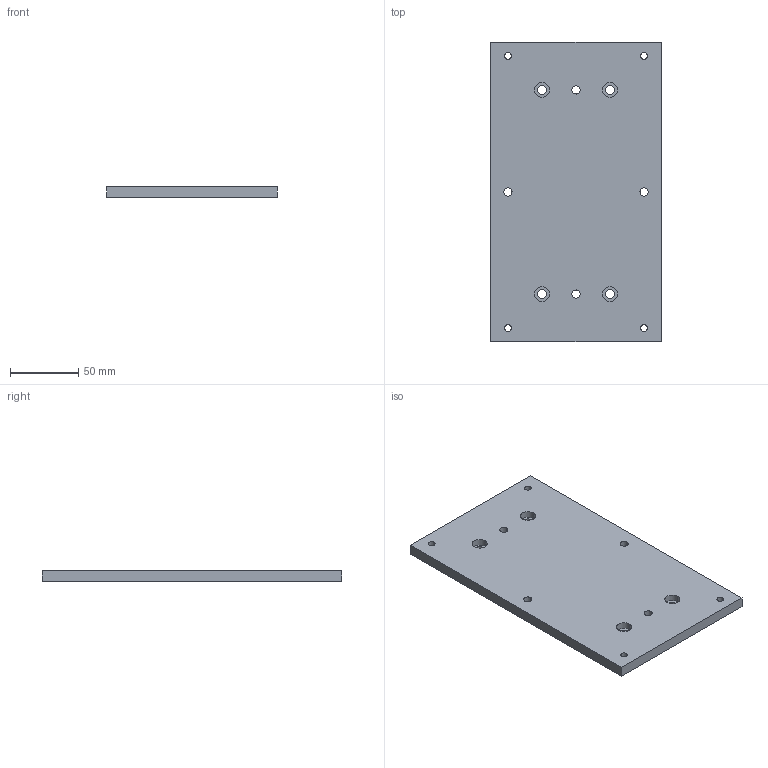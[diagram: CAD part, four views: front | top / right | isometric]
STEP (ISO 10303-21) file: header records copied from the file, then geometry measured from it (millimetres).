
FILE_DESCRIPTION (( 'STEP AP203' ), '1' );
FILE_NAME ('PS3 (fuer LF5).step', '2005-09-07T09:32:51', ( ' ' ), ( ' ' ), 'SwSTEP 2.0', 'SolidWorks 2005187', '' );
FILE_SCHEMA (( 'CONFIG_CONTROL_DESIGN' ));
Length unit declared in the file: millimetre
Products named in the file (1): PS3 (fuer LF5)
Bounding box: 125 x 220 x 8 mm (x, y, z)
Volume: 216155.7 mm3; surface area: 61908.8 mm2
Topology: 1 solids, 1 shells, 42 faces, 108 edges, 72 vertices
Faces by surface type: cylinder 32, plane 10
Entity records: 1441 total; most frequent: DIRECTION 258, CARTESIAN_POINT 223, ORIENTED_EDGE 216, EDGE_CURVE 108, AXIS2_PLACEMENT_3D 107, VERTEX_POINT 72, EDGE_LOOP 70, CIRCLE 64
